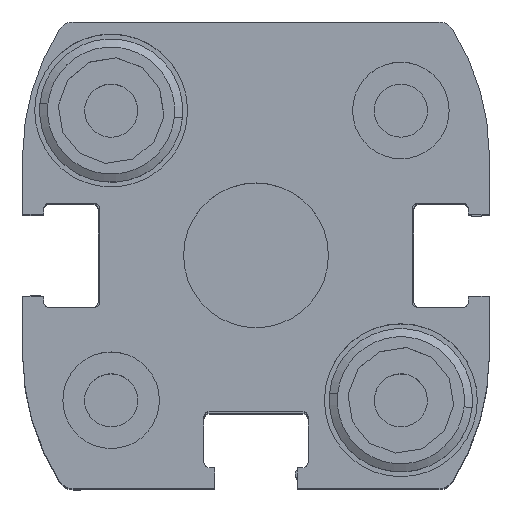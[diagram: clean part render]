
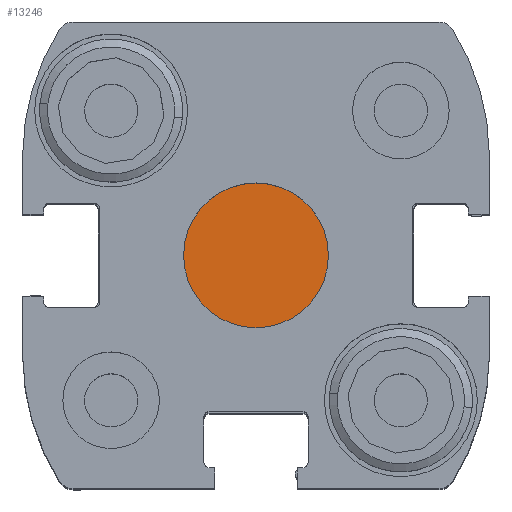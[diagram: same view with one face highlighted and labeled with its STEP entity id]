
A CAD part, top view. The second image highlights one B-rep face of the part: STEP entity #13246.
In plain terms, the highlighted planar face has unit normal (0, 0, 1).
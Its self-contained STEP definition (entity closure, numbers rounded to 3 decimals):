
#26 = FACE_OUTER_BOUND ( 'NONE', #8882, .T. ) ;
#113 = ORIENTED_EDGE ( 'NONE', *, *, #18867, .T. ) ;
#4842 = EDGE_CURVE ( 'NONE', #6683, #20441, #16791, .T. ) ;
#4863 = CARTESIAN_POINT ( 'NONE',  ( -4.5, 10.667, 3.094 ) ) ;
#6683 = VERTEX_POINT ( 'NONE', #4863 ) ;
#7808 = DIRECTION ( 'NONE',  ( 0., 0., 1. ) ) ;
#7984 = CARTESIAN_POINT ( 'NONE',  ( 0., 10.667, 3.094 ) ) ;
#8882 = EDGE_LOOP ( 'NONE', ( #113, #16647 ) ) ;
#10626 = AXIS2_PLACEMENT_3D ( 'NONE', #21127, #7808, #23024 ) ;
#11287 = AXIS2_PLACEMENT_3D ( 'NONE', #7984, #15858, #23712 ) ;
#13246 = ADVANCED_FACE ( 'NONE', ( #26 ), #13559, .T. ) ;
#13392 = CARTESIAN_POINT ( 'NONE',  ( 4.5, 10.667, 3.094 ) ) ;
#13559 = PLANE ( 'NONE',  #11287 ) ;
#14565 = DIRECTION ( 'NONE',  ( 0., 0., 1. ) ) ;
#15858 = DIRECTION ( 'NONE',  ( 0., 0., 1. ) ) ;
#16647 = ORIENTED_EDGE ( 'NONE', *, *, #4842, .T. ) ;
#16791 = CIRCLE ( 'NONE', #22947, 4.5 ) ;
#18867 = EDGE_CURVE ( 'NONE', #20441, #6683, #19688, .T. ) ;
#19688 = CIRCLE ( 'NONE', #10626, 4.5 ) ;
#20441 = VERTEX_POINT ( 'NONE', #13392 ) ;
#21127 = CARTESIAN_POINT ( 'NONE',  ( 0., 10.667, 3.094 ) ) ;
#22418 = DIRECTION ( 'NONE',  ( 1., 0., 0. ) ) ;
#22947 = AXIS2_PLACEMENT_3D ( 'NONE', #24320, #14565, #22418 ) ;
#23024 = DIRECTION ( 'NONE',  ( 1., 0., 0. ) ) ;
#23712 = DIRECTION ( 'NONE',  ( 1., 0., 0. ) ) ;
#24320 = CARTESIAN_POINT ( 'NONE',  ( 0., 10.667, 3.094 ) ) ;
